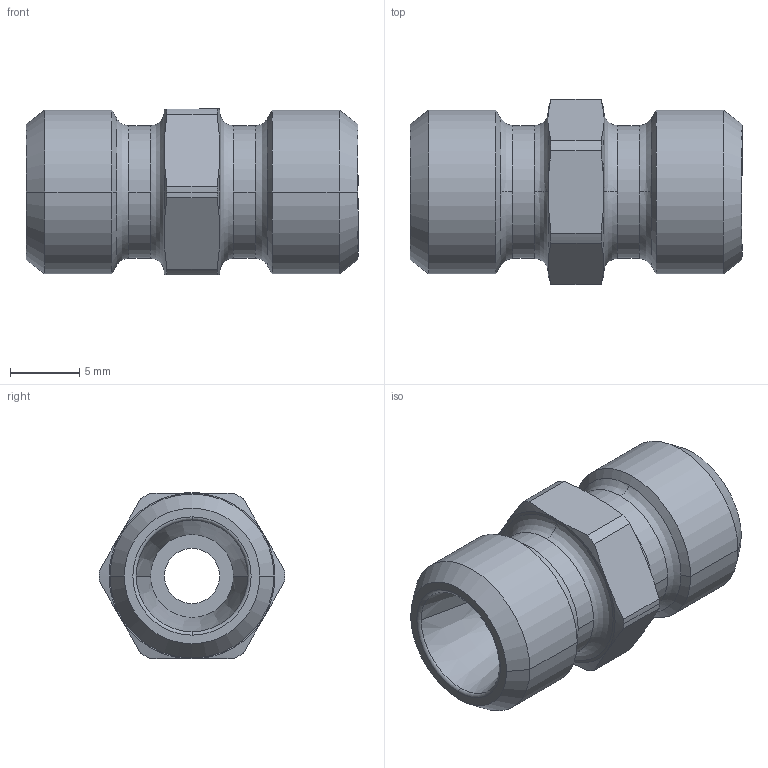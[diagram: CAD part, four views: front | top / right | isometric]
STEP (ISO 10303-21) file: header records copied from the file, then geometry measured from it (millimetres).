
FILE_DESCRIPTION((''),'2;1');
FILE_NAME('103504.stp','2007-10-31T11:34:51',(''),(''),'AutoCAD STEP 2000i','AutoCAD 2000i',', , ');
FILE_SCHEMA(('CONFIG_CONTROL_DESIGN'));
Length unit declared in the file: millimetre
Products named in the file (2): 103504.0; CHIAVE SMUSSATA#0
Assembly tree (1 placements, depth 2):
  103504.0
    CHIAVE SMUSSATA#0
Bounding box: 24 x 13.4 x 12 mm (x, y, z)
Volume: 1763.1 mm3; surface area: 1489.1 mm2
Topology: 1 solids, 1 shells, 70 faces, 172 edges, 108 vertices
Faces by surface type: cone 24, cylinder 22, plane 12, bspline 8, torus 4
Entity records: 2513 total; most frequent: CARTESIAN_POINT 752, DIRECTION 384, ORIENTED_EDGE 344, AXIS2_PLACEMENT_3D 172, EDGE_CURVE 172, VERTEX_POINT 108, CIRCLE 108, EDGE_LOOP 76
